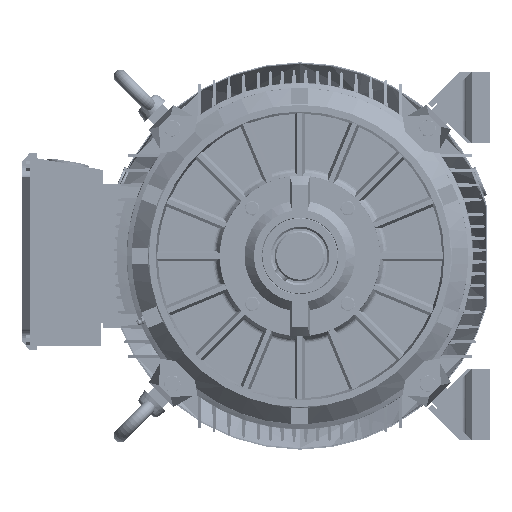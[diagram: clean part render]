
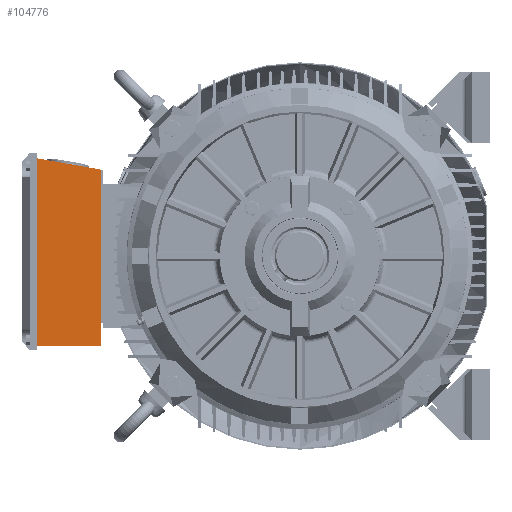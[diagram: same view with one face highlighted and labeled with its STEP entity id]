
A CAD part, left-side view. The second image highlights one B-rep face of the part: STEP entity #104776.
In plain terms, the highlighted planar face has unit normal (-1, 0, 0).
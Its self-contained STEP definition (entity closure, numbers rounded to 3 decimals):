
#4798 = DIRECTION ( 'NONE',  ( 0., 0., -1. ) ) ;
#4997 = ORIENTED_EDGE ( 'NONE', *, *, #260084, .T. ) ;
#7163 = VECTOR ( 'NONE', #249524, 1000. ) ;
#9308 = LINE ( 'NONE', #102309, #227471 ) ;
#10802 = LINE ( 'NONE', #236487, #49447 ) ;
#14167 = CARTESIAN_POINT ( 'NONE',  ( -30.206, 291.768, -106.82 ) ) ;
#15638 = PLANE ( 'NONE',  #162330 ) ;
#18898 = EDGE_CURVE ( 'NONE', #277993, #114600, #10802, .T. ) ;
#37047 = DIRECTION ( 'NONE',  ( 1., 0., 0. ) ) ;
#39918 = VERTEX_POINT ( 'NONE', #216769 ) ;
#49447 = VECTOR ( 'NONE', #4798, 1000. ) ;
#59923 = DIRECTION ( 'NONE',  ( 0., -1., 0. ) ) ;
#85443 = ORIENTED_EDGE ( 'NONE', *, *, #132544, .T. ) ;
#102309 = CARTESIAN_POINT ( 'NONE',  ( -30.206, 215.768, 102.18 ) ) ;
#104776 = ADVANCED_FACE ( 'NONE', ( #291555 ), #15638, .F. ) ;
#110846 = LINE ( 'NONE', #158101, #7163 ) ;
#114600 = VERTEX_POINT ( 'NONE', #257353 ) ;
#132544 = EDGE_CURVE ( 'NONE', #39918, #235209, #153546, .T. ) ;
#145329 = EDGE_LOOP ( 'NONE', ( #4997, #85443, #146510, #269040 ) ) ;
#146510 = ORIENTED_EDGE ( 'NONE', *, *, #249430, .T. ) ;
#152060 = CARTESIAN_POINT ( 'NONE',  ( -30.206, 215.768, -106.82 ) ) ;
#153546 = LINE ( 'NONE', #152060, #205268 ) ;
#158101 = CARTESIAN_POINT ( 'NONE',  ( -30.206, 215.768, -106.82 ) ) ;
#162330 = AXIS2_PLACEMENT_3D ( 'NONE', #14167, #37047, #59923 ) ;
#174935 = DIRECTION ( 'NONE',  ( 0., 0., 1. ) ) ;
#205268 = VECTOR ( 'NONE', #174935, 1000. ) ;
#216769 = CARTESIAN_POINT ( 'NONE',  ( -30.206, 215.768, -106.82 ) ) ;
#227471 = VECTOR ( 'NONE', #294214, 1000. ) ;
#235209 = VERTEX_POINT ( 'NONE', #290106 ) ;
#236487 = CARTESIAN_POINT ( 'NONE',  ( -30.206, 291.768, -106.82 ) ) ;
#249430 = EDGE_CURVE ( 'NONE', #235209, #277993, #9308, .T. ) ;
#249524 = DIRECTION ( 'NONE',  ( 0., -1., 0. ) ) ;
#257353 = CARTESIAN_POINT ( 'NONE',  ( -30.206, 291.768, -106.82 ) ) ;
#260084 = EDGE_CURVE ( 'NONE', #114600, #39918, #110846, .T. ) ;
#269040 = ORIENTED_EDGE ( 'NONE', *, *, #18898, .T. ) ;
#277993 = VERTEX_POINT ( 'NONE', #287754 ) ;
#287754 = CARTESIAN_POINT ( 'NONE',  ( -30.206, 291.768, 115.581 ) ) ;
#290106 = CARTESIAN_POINT ( 'NONE',  ( -30.206, 215.768, 102.18 ) ) ;
#291555 = FACE_OUTER_BOUND ( 'NONE', #145329, .T. ) ;
#294214 = DIRECTION ( 'NONE',  ( 0., 0.985, 0.174 ) ) ;
